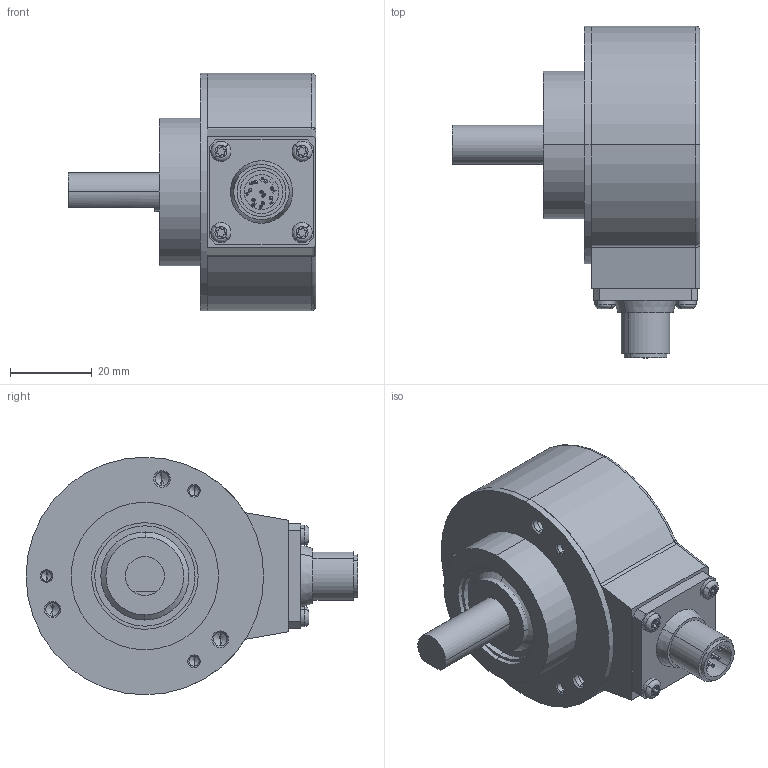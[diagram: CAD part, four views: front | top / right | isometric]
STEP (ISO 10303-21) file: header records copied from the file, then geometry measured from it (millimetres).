
FILE_DESCRIPTION (( 'STEP AP203' ), '1' );
FILE_NAME ('K58I.OXX.XXXXX.XS1C52B.6XRC2.step', '2025-12-08T15:59:34', ( '' ), ( '' ), 'SwSTEP 2.0', 'SolidWorks 2021', '' );
FILE_SCHEMA (( 'CONFIG_CONTROL_DESIGN' ));
Length unit declared in the file: millimetre
Products named in the file (1): K58I.OXX.XXXXX.XS1C52B.6XRC2
Bounding box: 60.41 x 81 x 58 mm (x, y, z)
Volume: 125213.1 mm3; surface area: 31255.5 mm2
Topology: 6 solids, 6 shells, 399 faces, 1009 edges, 646 vertices
Faces by surface type: cylinder 170, plane 108, bspline 70, cone 30, sphere 16, torus 5
Entity records: 15919 total; most frequent: CARTESIAN_POINT 6651, ORIENTED_EDGE 1930, DIRECTION 1848, EDGE_CURVE 965, AXIS2_PLACEMENT_3D 707, VERTEX_POINT 630, EDGE_LOOP 459, LINE 434
